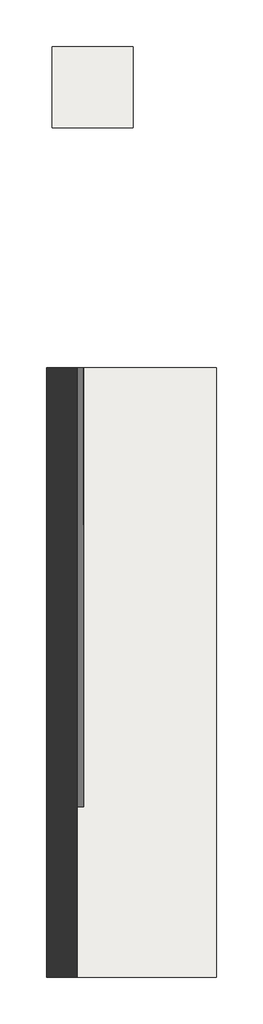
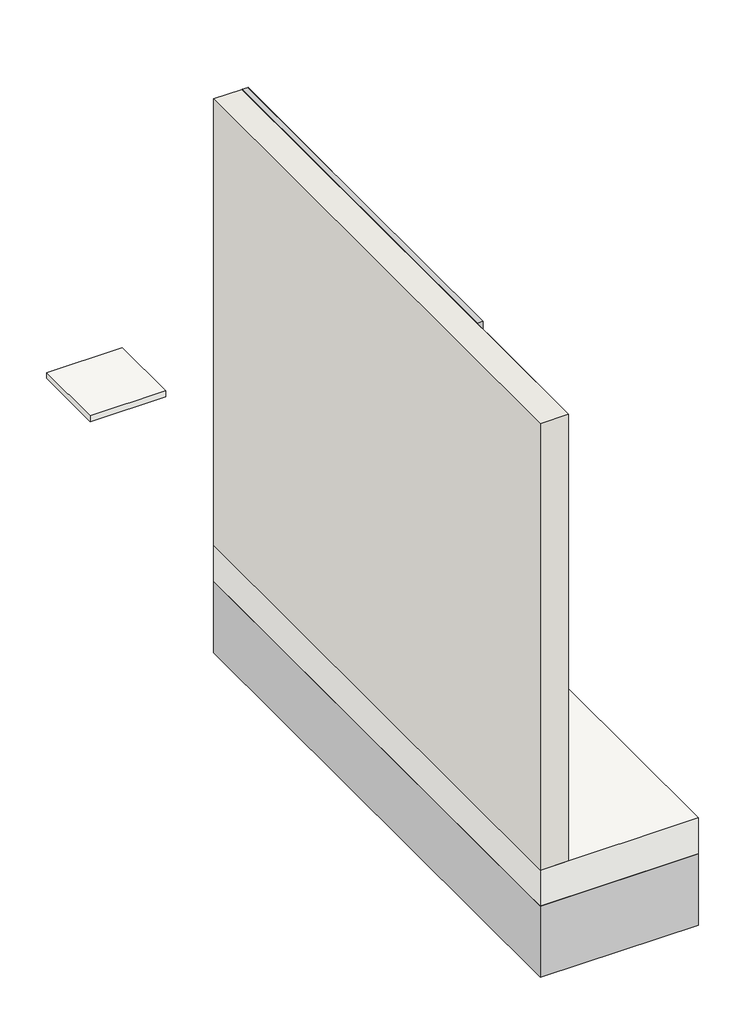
# One storey: 2 slabs, 1 proxy, 1 wall.
"""IFC4 building model written with IfcOpenShell, lengths in millimetres."""

from ifc_helpers import new_model, si_unit, frame, origin, place, context, project, spatial, polyline, outline, extrude, transform, mapped, element, save
from components import generic_models_b173d579

model = new_model("IFC4")

# Units and contexts
model_context = context("Model", 3, world=origin())
ifc_project = project(units=[si_unit("LENGTHUNIT", "METRE", prefix="MILLI")], contexts=[model_context])

# Site, building, storey
site = spatial("IfcSite", under=ifc_project)
building = spatial("IfcBuilding", under=site)
storey = spatial("IfcBuildingStorey", under=building, Name="ARQ Térreo", Elevation=-2.523798)

# Proxy
placement = place(None, origin())
generic_models_shape = generic_models_b173d579(model_context)
element("IfcBuildingElementProxy", 1, Name="IMPER:IMPER:433934 : IMPER:IMPER:433934", ObjectType="IMPER:IMPER:433934 : IMPER:IMPER:433934", at=placement, inside=storey, context=model_context, shape_type="MappedRepresentation", body=[
    mapped(generic_models_shape, transform((0.0, 0.0, 0.0), x_axis=(1.0, 0.0, 0.0), y_axis=(0.0, 1.0, 0.0), z_axis=(0.0, 0.0, 1.0))),
])

# Slabs
element("IfcSlab", 2, ObjectType="IMPH_VPREPARO", at=placement, inside=storey, context=model_context, shape_type="SweptSolid", body=[
    extrude(outline(polyline([(-339.4717852, 2454.1249925), (60.5282148, 2454.1249925), (60.5282148, 2054.1249925), (-339.4717852, 2054.1249925), (-339.4717852, 2454.1249925)])), frame((0.0, 0.0, -34.523798), z_axis=(0.0, 0.0, 1.0), x_axis=(1.0, 0.0, 0.0)), (0.0, 0.0, 1.0), 32.0),
])
element("IfcSlab", 3, ObjectType="Piso:LAJE CONCRETO", at=placement, inside=storey, context=model_context, shape_type="SweptSolid", body=[
    extrude(outline(polyline([(-367.0499776, 874.3260192), (469.984728, 874.3260192), (469.984728, -2125.6739808), (-367.0499776, -2125.6739808), (-367.0499776, 874.3260192)])), frame((0.0, 0.0, -202.523798), z_axis=(0.0, 0.0, 1.0), x_axis=(1.0, 0.0, 0.0)), (0.0, 0.0, 1.0), 200.0),
])

# Wall
element("IfcWall", 4, ObjectType="Parede de Alvenaria 2", at=placement, inside=storey, context=model_context, shape_type="SweptSolid", body=[
    extrude(outline(polyline([(-367.0499776, -2125.6739808), (-367.0499776, 874.3260192), (-217.0499776, 874.3260192), (-217.0499776, -2125.6739808), (-367.0499776, -2125.6739808)])), frame((0.0, 0.0, -2.523798), z_axis=(0.0, 0.0, 1.0), x_axis=(1.0, 0.0, 0.0)), (0.0, 0.0, 1.0), 2500.0),
])

save(model, "model.ifc")
